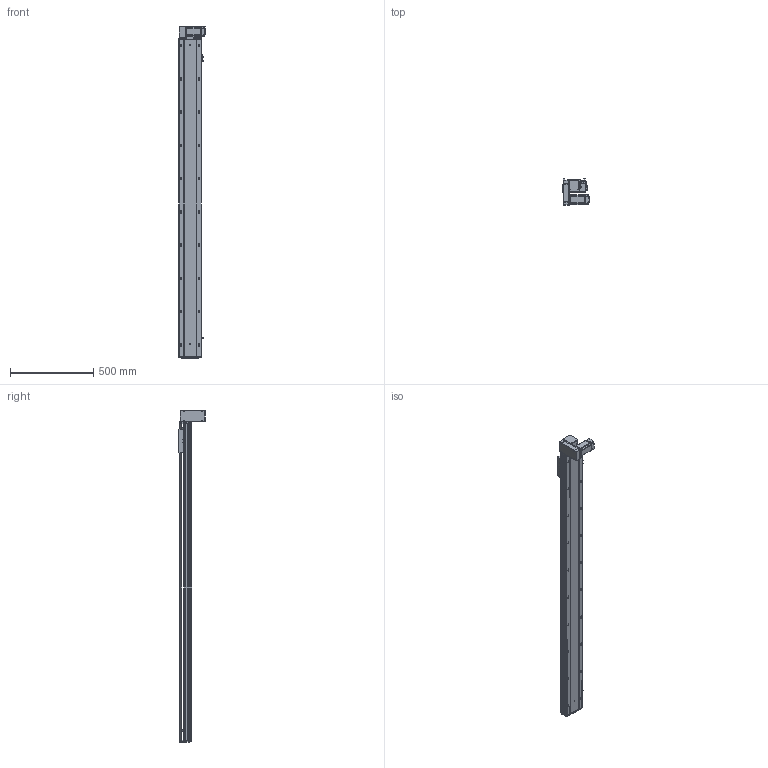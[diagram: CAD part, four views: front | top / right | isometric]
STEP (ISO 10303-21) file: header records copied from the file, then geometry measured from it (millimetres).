
FILE_DESCRIPTION (( 'STEP AP203' ), '1' );
FILE_NAME ('RY140-T-300-DL.SLDASM_1650.step', '2021-03-01T06:07:21', ( '盈信电脑' ), ( '东莞市道滘镇水果街19号' ), 'SwSTEP 2.0', 'SolidWorks 2012', '' );
FILE_SCHEMA (( 'CONFIG_CONTROL_DESIGN' ));
Length unit declared in the file: millimetre
Products named in the file (18): RY140-T翋肮謫裔啣; RY140-T-300-DL.SLDASM_1650; RY120-T蹟翐M4; 滅袉蝶18-10; RY120-T主同步轮轴承压盖; RY140-T萇儂欶; 侂狟400W侜督萇儂; 15; RY140-T萇儂假蚾啣; RY140-T翋肮祭謫盓傅釱; RY120外置感应片(140共用）; RY120-T肮祭湍揤踡輸2; RY120-T肮祭湍揤踡輸1; RY140綴裔啣; RY140-T-300-DL倰第奻裔啣_1650; RY140肮祭謫臏賑輸; 覜茼ん672; RY140-T-300-DL倰第菁釱_1650
Assembly tree (23 placements, depth 3):
  RY140-T-300-DL.SLDASM_1650
    RY140-T-300-DL倰第菁釱_1650
    RY140肮祭謫臏賑輸
    RY140-T-300-DL倰第奻裔啣_1650
    RY140綴裔啣
    覜茼ん672  x3
    RY120外置感应片(140共用）
    RY120-T肮祭湍揤踡輸2
    RY120-T肮祭湍揤踡輸1
    RY140-T翋肮祭謫盓傅釱
    RY140-T萇儂假蚾啣
    侂狟400W侜督萇儂
      15
    RY120-T主同步轮轴承压盖
    RY120-T蹟翐M4  x4
    RY140-T萇儂欶
    滅袉蝶18-10  x2
    RY140-T翋肮謫裔啣
Bounding box: 157 x 158.5 x 1996 mm (x, y, z)
Volume: 5551282.2 mm3; surface area: 2159364.9 mm2
Topology: 22 solids, 22 shells, 2818 faces, 7730 edges, 4932 vertices
Faces by surface type: plane 1385, cylinder 1067, cone 266, bspline 100
Entity records: 89144 total; most frequent: CARTESIAN_POINT 21651, ORIENTED_EDGE 13860, DIRECTION 13244, EDGE_CURVE 6930, VERTEX_POINT 4531, AXIS2_PLACEMENT_3D 4441, VECTOR 4362, LINE 4362
